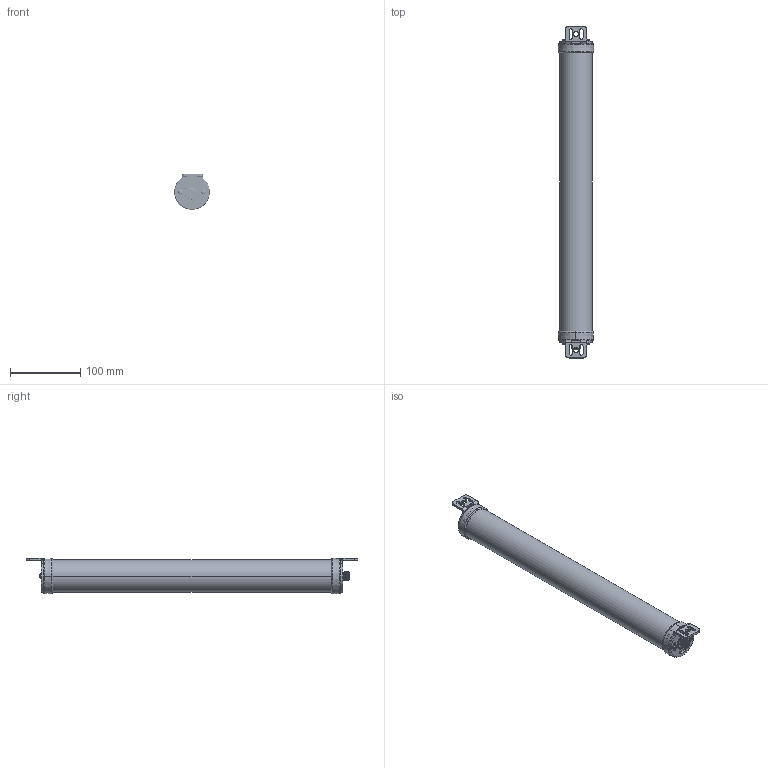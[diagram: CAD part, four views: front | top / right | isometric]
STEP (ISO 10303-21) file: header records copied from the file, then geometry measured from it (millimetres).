
FILE_DESCRIPTION((''),'2;1');
FILE_NAME('ESF_ASM','2024-01-10T15:27:05',('18565748720'),(''),'CREO PARAMETRIC BY PTC INC, 2022164','CREO PARAMETRIC BY PTC INC, 2022164','');
FILE_SCHEMA(('CONFIG_CONTROL_DESIGN'));
Length unit declared in the file: millimetre
Products named in the file (14): ESF-122000; ESF-1220000; 000; ST-3-18; M4--0001; 0002; ESF--00; M4-8; 000_ASM; M12--50001; M120001; ESF_ASM
Assembly tree (28 placements, depth 3):
  ESF_ASM
    ESF-122000
    ESF-1220000
    000_ASM
      000
      ST-3-18  x4
      M4--0001  x2
      0002
      ESF--00
      M4-8  x2
    000_ASM
      000
      ST-3-18  x4
      M4--0001  x2
      M12--50001
      0002
      M120001
      ESF--00
      M4-8  x2
Bounding box: 50.62 x 473.09 x 50.8 mm (x, y, z)
Volume: 515690.3 mm3; surface area: 218789.5 mm2
Topology: 26 solids, 32 shells, 2962 faces, 8219 edges, 5354 vertices
Faces by surface type: cylinder 1840, cone 412, plane 348, bspline 274, torus 84, revolution 4
Entity records: 46563 total; most frequent: CARTESIAN_POINT 22075, DIRECTION 5349, ORIENTED_EDGE 5044, EDGE_CURVE 2522, AXIS2_PLACEMENT_3D 2200, VERTEX_POINT 1655, CIRCLE 1254, EDGE_LOOP 1023
